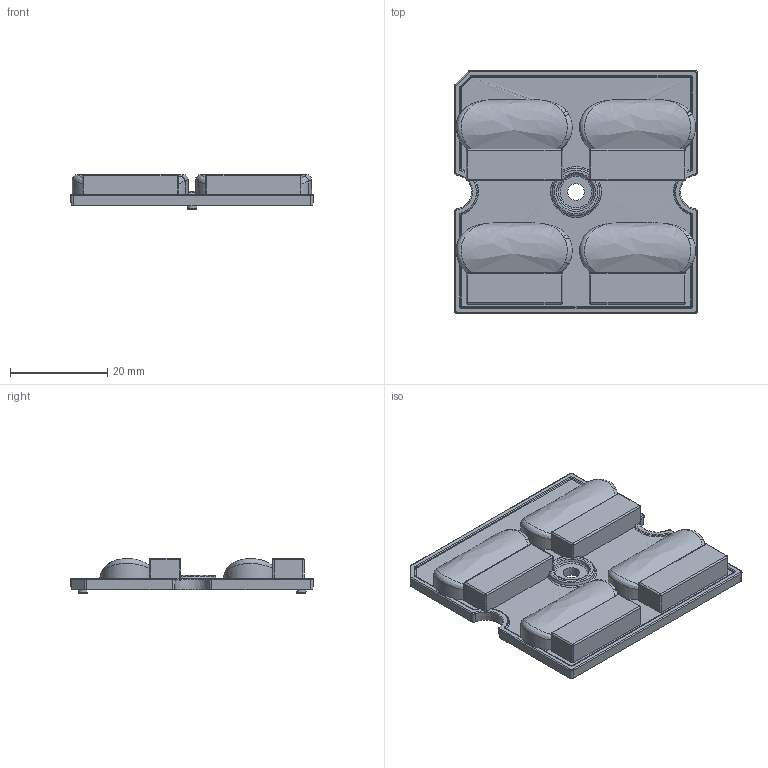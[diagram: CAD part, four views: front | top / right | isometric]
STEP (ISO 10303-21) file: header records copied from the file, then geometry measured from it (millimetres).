
FILE_DESCRIPTION(/* description */ ('Unknown'),/* implementation_level */ '2;1');
FILE_NAME(/* name */ '023-W0G-02',/* time_stamp */ '2023-11-14T17:25:23+01:00',/* author */ ('Unknown'),/* organization */ ('Unknown'),/* preprocessor_version */ 'ST-DEVELOPER v16.7',/* originating_system */ 'Solid Edge',/* authorisation */ 'Unknown');
FILE_SCHEMA (('AUTOMOTIVE_DESIGN {1 0 10303 214 3 1 1}'));
Length unit declared in the file: millimetre
Products named in the file (1): 023-W0G-02
Bounding box: 49.98 x 49.98 x 7.3 mm (x, y, z)
Volume: 9162.3 mm3; surface area: 7306.6 mm2
Topology: 1 solids, 1 shells, 491 faces, 1288 edges, 807 vertices
Faces by surface type: plane 238, cylinder 110, bspline 77, torus 42, sphere 16, cone 8
Entity records: 17670 total; most frequent: CARTESIAN_POINT 6549, ORIENTED_EDGE 2498, DIRECTION 1975, EDGE_CURVE 1249, VERTEX_POINT 804, AXIS2_PLACEMENT_3D 689, LINE 597, VECTOR 597
